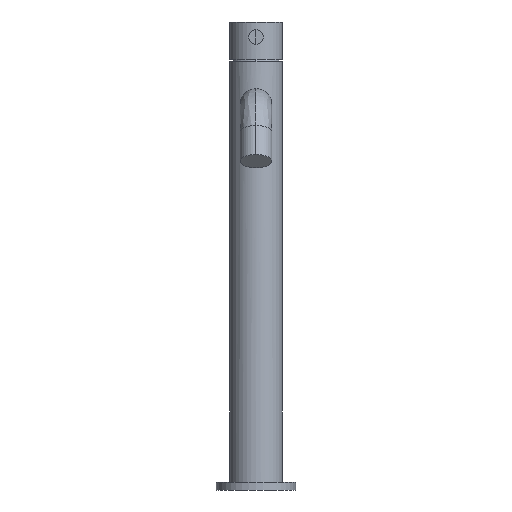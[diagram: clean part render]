
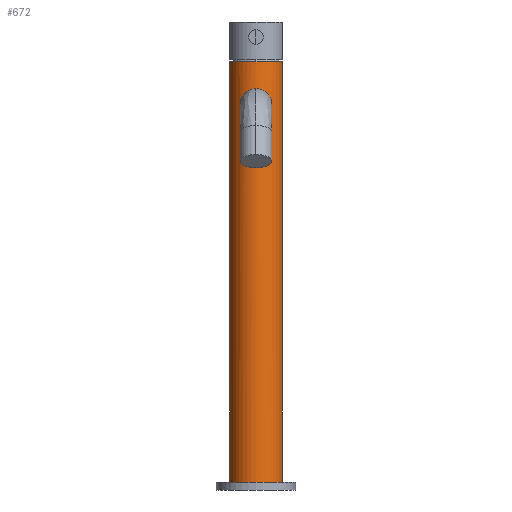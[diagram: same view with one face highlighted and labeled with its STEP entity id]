
A CAD part, front view. The second image highlights one B-rep face of the part: STEP entity #672.
In plain terms, the highlighted cylindrical face has radius 16.5 mm (diameter 33 mm), a partial arc.
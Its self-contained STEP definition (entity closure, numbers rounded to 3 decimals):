
#624 = EDGE_CURVE('',#625,#627,#629,.T.);
#625 = VERTEX_POINT('',#626);
#626 = CARTESIAN_POINT('',(-16.5,0.,
    270.));
#627 = VERTEX_POINT('',#628);
#628 = CARTESIAN_POINT('',(16.5,0.,
    270.));
#629 = CIRCLE('',#630,16.5);
#630 = AXIS2_PLACEMENT_3D('',#631,#632,#633);
#631 = CARTESIAN_POINT('',(0.,0.,
    270.));
#632 = DIRECTION('',(0.,0.,1.));
#633 = DIRECTION('',(1.,0.,-0.));
#651 = VERTEX_POINT('',#652);
#652 = CARTESIAN_POINT('',(-16.5,0.,
    5.));
#653 = VERTEX_POINT('',#654);
#654 = CARTESIAN_POINT('',(16.5,0.,
    5.));
#661 = EDGE_CURVE('',#653,#651,#662,.T.);
#662 = CIRCLE('',#663,16.5);
#663 = AXIS2_PLACEMENT_3D('',#664,#665,#666);
#664 = CARTESIAN_POINT('',(0.,0.,
    5.));
#665 = DIRECTION('',(0.,0.,-1.));
#666 = DIRECTION('',(1.,0.,0.));
#672 = ADVANCED_FACE('',(#673,#689),#746,.T.);
#673 = FACE_BOUND('',#674,.T.);
#674 = EDGE_LOOP('',(#675,#676,#682,#683));
#675 = ORIENTED_EDGE('',*,*,#624,.F.);
#676 = ORIENTED_EDGE('',*,*,#677,.T.);
#677 = EDGE_CURVE('',#625,#651,#678,.T.);
#678 = LINE('',#679,#680);
#679 = CARTESIAN_POINT('',(-16.5,0.,
    270.));
#680 = VECTOR('',#681,1.);
#681 = DIRECTION('',(0.,0.,-1.));
#682 = ORIENTED_EDGE('',*,*,#661,.F.);
#683 = ORIENTED_EDGE('',*,*,#684,.T.);
#684 = EDGE_CURVE('',#653,#627,#685,.T.);
#685 = LINE('',#686,#687);
#686 = CARTESIAN_POINT('',(16.5,0.,
    270.));
#687 = VECTOR('',#688,1.);
#688 = DIRECTION('',(0.,0.,1.));
#689 = FACE_BOUND('',#690,.T.);
#690 = EDGE_LOOP('',(#691,#720));
#691 = ORIENTED_EDGE('',*,*,#692,.T.);
#692 = EDGE_CURVE('',#693,#695,#697,.T.);
#693 = VERTEX_POINT('',#694);
#694 = CARTESIAN_POINT('',(0.,-16.5,
    252.887));
#695 = VERTEX_POINT('',#696);
#696 = CARTESIAN_POINT('',(0.,-16.5,
    232.887));
#697 = B_SPLINE_CURVE_WITH_KNOTS('',3,(#698,#699,#700,#701,#702,#703,
    #704,#705,#706,#707,#708,#709,#710,#711,#712,#713,#714,#715,#716,
    #717,#718,#719),.UNSPECIFIED.,.F.,.F.,(4,2,2,2,2,2,2,2,2,2,4),(
    -4.667,-4.279,-3.892,-3.502,
    -3.306,-3.111,-2.916,-2.721,
    -2.331,-1.943,-1.556),.UNSPECIFIED.);
#698 = CARTESIAN_POINT('',(0.,-16.5,
    252.887));
#699 = CARTESIAN_POINT('',(1.292,-16.5,
    252.887));
#700 = CARTESIAN_POINT('',(2.648,-16.335,
    252.622));
#701 = CARTESIAN_POINT('',(5.103,-15.742,
    251.59));
#702 = CARTESIAN_POINT('',(6.205,-15.319,
    250.824));
#703 = CARTESIAN_POINT('',(7.943,-14.494,
    249.086));
#704 = CARTESIAN_POINT('',(8.704,-14.031,
    247.986));
#705 = CARTESIAN_POINT('',(9.476,-13.511,
    246.151));
#706 = CARTESIAN_POINT('',(9.673,-13.368,245.508
    ));
#707 = CARTESIAN_POINT('',(9.936,-13.174,
    244.202));
#708 = CARTESIAN_POINT('',(10.,-13.124,
    243.538));
#709 = CARTESIAN_POINT('',(10.,-13.124,
    242.237));
#710 = CARTESIAN_POINT('',(9.936,-13.174,
    241.573));
#711 = CARTESIAN_POINT('',(9.673,-13.368,240.266
    ));
#712 = CARTESIAN_POINT('',(9.476,-13.511,
    239.624));
#713 = CARTESIAN_POINT('',(8.704,-14.031,
    237.788));
#714 = CARTESIAN_POINT('',(7.943,-14.494,
    236.688));
#715 = CARTESIAN_POINT('',(6.205,-15.319,
    234.95));
#716 = CARTESIAN_POINT('',(5.103,-15.742,
    234.185));
#717 = CARTESIAN_POINT('',(2.648,-16.335,
    233.152));
#718 = CARTESIAN_POINT('',(1.292,-16.5,
    232.887));
#719 = CARTESIAN_POINT('',(0.,-16.5,
    232.887));
#720 = ORIENTED_EDGE('',*,*,#721,.T.);
#721 = EDGE_CURVE('',#695,#693,#722,.T.);
#722 = B_SPLINE_CURVE_WITH_KNOTS('',3,(#723,#724,#725,#726,#727,#728,
    #729,#730,#731,#732,#733,#734,#735,#736,#737,#738,#739,#740,#741,
    #742,#743,#744,#745),.UNSPECIFIED.,.F.,.F.,(4,2,2,2,2,3,2,2,2,2,4),(
    -1.556,-1.168,-0.78,-0.39,
    -0.195,0.,0.195,0.39,
    0.78,1.168,1.556),.UNSPECIFIED.);
#723 = CARTESIAN_POINT('',(0.,-16.5,
    232.887));
#724 = CARTESIAN_POINT('',(-1.292,-16.5,
    232.887));
#725 = CARTESIAN_POINT('',(-2.648,-16.335,
    233.152));
#726 = CARTESIAN_POINT('',(-5.103,-15.742,
    234.185));
#727 = CARTESIAN_POINT('',(-6.205,-15.319,
    234.95));
#728 = CARTESIAN_POINT('',(-7.943,-14.494,
    236.688));
#729 = CARTESIAN_POINT('',(-8.704,-14.031,
    237.788));
#730 = CARTESIAN_POINT('',(-9.476,-13.511,
    239.624));
#731 = CARTESIAN_POINT('',(-9.673,-13.368,
    240.266));
#732 = CARTESIAN_POINT('',(-9.936,-13.174,
    241.573));
#733 = CARTESIAN_POINT('',(-10.,-13.124,
    242.237));
#734 = CARTESIAN_POINT('',(-10.,-13.124,
    242.887));
#735 = CARTESIAN_POINT('',(-10.,-13.124,
    243.538));
#736 = CARTESIAN_POINT('',(-9.936,-13.174,
    244.202));
#737 = CARTESIAN_POINT('',(-9.673,-13.368,
    245.508));
#738 = CARTESIAN_POINT('',(-9.476,-13.511,
    246.151));
#739 = CARTESIAN_POINT('',(-8.704,-14.031,
    247.986));
#740 = CARTESIAN_POINT('',(-7.943,-14.494,
    249.086));
#741 = CARTESIAN_POINT('',(-6.205,-15.319,
    250.824));
#742 = CARTESIAN_POINT('',(-5.103,-15.742,
    251.59));
#743 = CARTESIAN_POINT('',(-2.648,-16.335,
    252.622));
#744 = CARTESIAN_POINT('',(-1.292,-16.5,
    252.887));
#745 = CARTESIAN_POINT('',(0.,-16.5,
    252.887));
#746 = CYLINDRICAL_SURFACE('',#747,16.5);
#747 = AXIS2_PLACEMENT_3D('',#748,#749,#750);
#748 = CARTESIAN_POINT('',(0.,0.,
    5.));
#749 = DIRECTION('',(0.,0.,1.));
#750 = DIRECTION('',(1.,0.,-0.));
